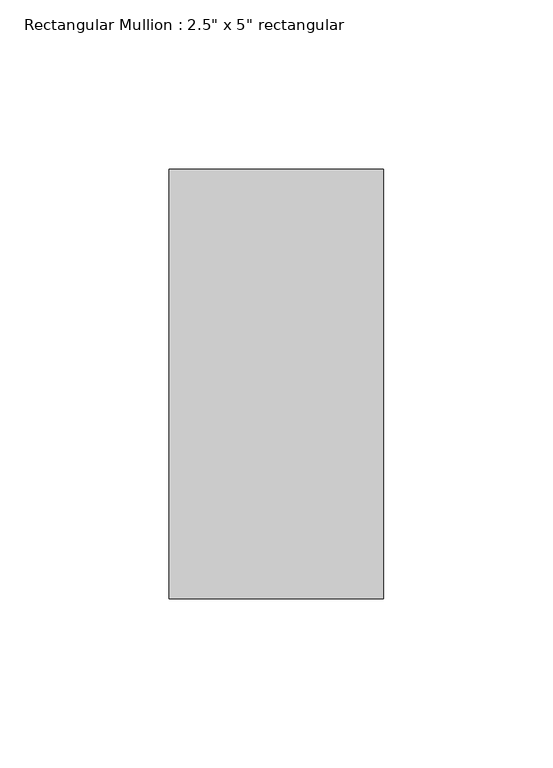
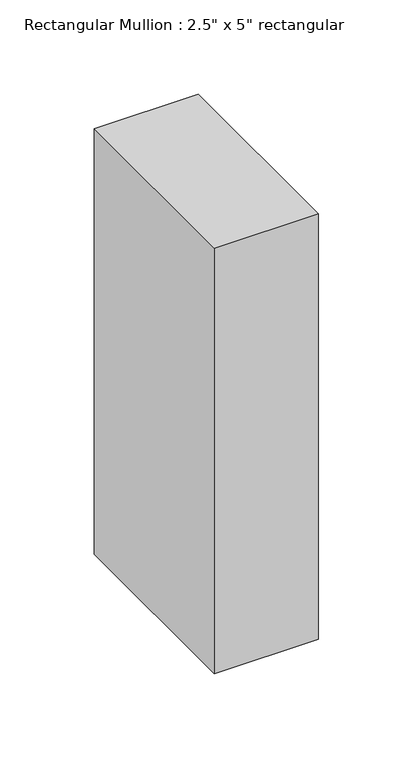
"""IFC4 building model written with IfcOpenShell, lengths in millimetres: member geometry."""

from ifc_helpers import new_model, si_unit, frame, origin, place, context, project, spatial, polyline, outline, extrude, source, transform, mapped, element, save


def member_25c25d92(model_context):
    return source(origin(), model_context, "Body", "SweptSolid", [
        extrude(outline(polyline([(31.75, 63.5), (31.75, -63.5), (-31.75, -63.5), (-31.75, 63.5), (31.75, 63.5)])), frame((0.0, 0.0, -274.8643649), z_axis=(0.0, 0.0, 1.0), x_axis=(1.0, 0.0, 0.0)), (0.0, 0.0, 1.0), 274.8643649),
    ])


if __name__ == "__main__":
    model = new_model("IFC4")
    model_context = context("Model", 3, world=origin())
    ifc_project = project(units=[si_unit("LENGTHUNIT", "METRE", prefix="MILLI")], contexts=[model_context])
    site = spatial("IfcSite", under=ifc_project)
    building = spatial("IfcBuilding", under=site)
    placement = place(None, origin())
    member_shape = member_25c25d92(model_context)
    element("IfcMember", 1, ObjectType="Rectangular Mullion : 2.5\" x 5\" rectangular", at=placement, inside=building, context=model_context, shape_type="MappedRepresentation", body=[
        mapped(member_shape, transform((0.0, 0.0, 0.0), x_axis=(1.0, 0.0, 0.0), y_axis=(0.0, 1.0, 0.0), z_axis=(0.0, 0.0, 1.0))),
    ])
    save(model, "model.ifc")
